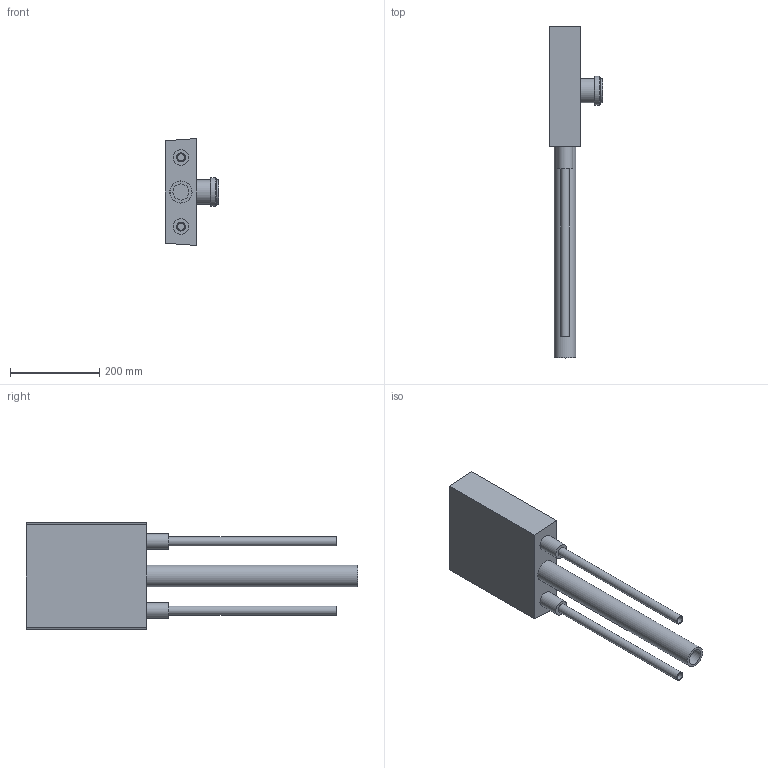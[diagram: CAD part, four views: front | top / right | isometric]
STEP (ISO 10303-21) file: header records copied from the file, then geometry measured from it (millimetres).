
FILE_DESCRIPTION(/* description */ (''),/* implementation_level */ '2;1');
FILE_NAME(/* name */ '\\lg50011\SANHA_LEGNICA\Engineering\Public\PROJEKTY\SANHA-BOX_Support_BiR\002-Rysunki_Boxów\25-ST-M\325STM20.stp',/* time_stamp */ '2018-12-11T08:26:36+01:00',/* author */ ('grzegorz.juzak'),/* organization */ (''),/* preprocessor_version */ 'ST-DEVELOPER v17',/* originating_system */ 'Autodesk Inventor 2019',/* authorisation */ '');
FILE_SCHEMA (('AUTOMOTIVE_DESIGN { 1 0 10303 214 3 1 1 }'));
Length unit declared in the file: millimetre
Products named in the file (5): 325STM20; Rura_50; Kolano_DN50-OD50; 325STM20_1; Rura_20x2
Assembly tree (5 placements, depth 2):
  325STM20
    Rura_50
    Kolano_DN50-OD50
    325STM20_1
    Rura_20x2  x2
Bounding box: 119.49 x 744.55 x 240 mm (x, y, z)
Volume: 4977400.8 mm3; surface area: 495893 mm2
Topology: 5 solids, 5 shells, 124 faces, 288 edges, 194 vertices
Faces by surface type: plane 86, cylinder 20, bspline 16, cone 2
Full cylindrical faces by diameter (mm): 16 x2, 18.631 x2, 20 x4, 21 x2, 35 x2, 35.993 x1, 48.5 x1, 50 x1, 51 x1, 55 x3, 65 x1
Entity records: 3745 total; most frequent: CARTESIAN_POINT 810, ORIENTED_EDGE 564, DIRECTION 524, EDGE_CURVE 282, LINE 204, VECTOR 204, VERTEX_POINT 190, AXIS2_PLACEMENT_3D 160
